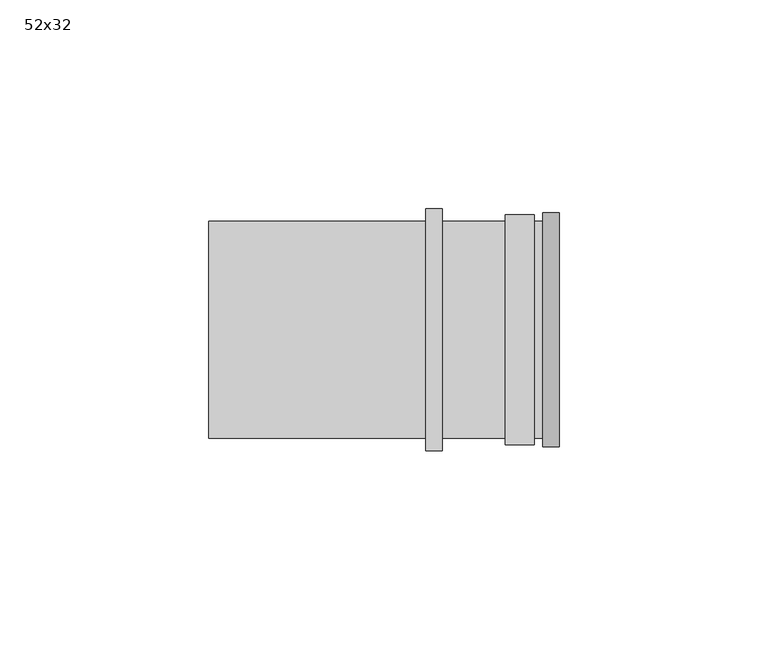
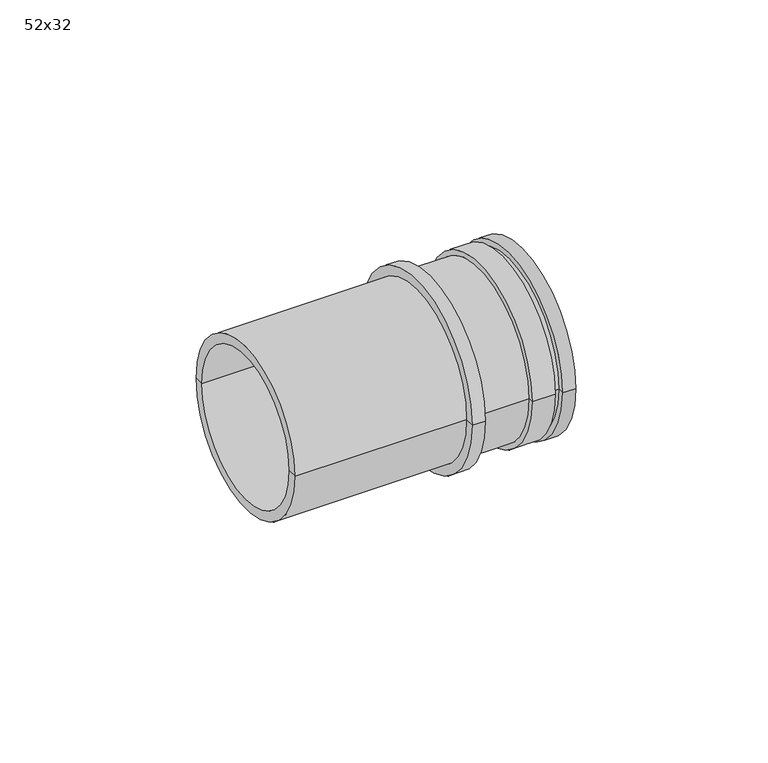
"""IFC4 building model written with IfcOpenShell, lengths in millimetres: pipe fitting geometry, AliaxisFR_Friaphon_CopperPVCConnector_FR : 52x32."""

from ifc_helpers import new_model, si_unit, frame, origin, place, context, project, spatial, polyline, circle_curve, source, transform, mapped, element, save
from ifc_brep_helpers import plane_surface, cylinder_surface, revolved_surface, advanced_brep


def pipe_fitting_52x32_a2808027(model_context):
    return source(origin(), model_context, "Body", "AdvancedBrep", [
        advanced_brep(
        [(19.0, 27.5404487, 0.0), (19.0, -27.5404487, 0.0), (19.0, -26.0, 0.0), (19.0, 26.0, 0.0), (26.0, 27.5404487, 0.0), (26.0, -27.5404487, 0.0), (26.0, 26.0, 0.0), (26.0, -26.0, 0.0), (28.0, 26.0, 0.0), (28.0, -26.0, 0.0), (28.0, 23.0, 0.0), (28.0, -23.0, 0.0), (-52.0, 23.0, 0.0), (-52.0, -23.0, 0.0), (0.0, 26.0, 0.0), (0.0, -26.0, 0.0), (-52.0, -26.0, 0.0), (-52.0, 26.0, 0.0), (0.0, 29.0, 0.0), (0.0, -29.0, 0.0), (4.0, 29.0, 0.0), (4.0, -29.0, 0.0), (4.0, 26.0, 0.0), (4.0, -26.0, 0.0)],
        [
            (0, 1, circle_curve(frame((19.0, 0.0, 0.0), z_axis=(-1.0, 0.0, 0.0), x_axis=(0.0, -1.0, 0.0)), 27.5404487)),
            (1, 2),
            (2, 3, circle_curve(frame((19.0, 0.0, 0.0), z_axis=(1.0, 0.0, 0.0), x_axis=(0.0, -1.0, 0.0)), 26.0)),
            (3, 0),
            (1, 0, circle_curve(frame((19.0, 0.0, 0.0), z_axis=(-1.0, 0.0, 0.0), x_axis=(0.0, -1.0, 0.0)), 27.5404487)),
            (3, 2, circle_curve(frame((19.0, 0.0, 0.0), z_axis=(1.0, 0.0, 0.0), x_axis=(0.0, -1.0, 0.0)), 26.0)),
            (4, 5, circle_curve(frame((26.0, 0.0, 0.0), z_axis=(-1.0, 0.0, 0.0), x_axis=(0.0, -1.0, 0.0)), 27.5404487)),
            (5, 1),
            (0, 4),
            (5, 4, circle_curve(frame((26.0, 0.0, 0.0), z_axis=(-1.0, 0.0, 0.0), x_axis=(0.0, -1.0, 0.0)), 27.5404487)),
            (6, 7, circle_curve(frame((26.0, 0.0, 0.0), z_axis=(-1.0, 0.0, 0.0), x_axis=(0.0, -1.0, 0.0)), 26.0)),
            (7, 5),
            (4, 6),
            (7, 6, circle_curve(frame((26.0, 0.0, 0.0), z_axis=(-1.0, 0.0, 0.0), x_axis=(0.0, -1.0, 0.0)), 26.0)),
            (8, 9, circle_curve(frame((28.0, 0.0, 0.0), z_axis=(-1.0, 0.0, 0.0), x_axis=(0.0, -1.0, 0.0)), 26.0)),
            (9, 7),
            (6, 8),
            (9, 8, circle_curve(frame((28.0, 0.0, 0.0), z_axis=(-1.0, 0.0, 0.0), x_axis=(0.0, -1.0, 0.0)), 26.0)),
            (10, 11, circle_curve(frame((28.0, 0.0, 0.0), z_axis=(-1.0, 0.0, 0.0), x_axis=(0.0, -1.0, 0.0)), 23.0)),
            (11, 9),
            (8, 10),
            (11, 10, circle_curve(frame((28.0, 0.0, 0.0), z_axis=(-1.0, 0.0, 0.0), x_axis=(0.0, -1.0, 0.0)), 23.0)),
            (12, 13, circle_curve(frame((-52.0, 0.0, 0.0), z_axis=(-1.0, 0.0, 0.0), x_axis=(0.0, -1.0, 0.0)), 23.0)),
            (13, 11),
            (10, 12),
            (13, 12, circle_curve(frame((-52.0, 0.0, 0.0), z_axis=(-1.0, 0.0, 0.0), x_axis=(0.0, -1.0, 0.0)), 23.0)),
            (14, 15, circle_curve(frame((0.0, 0.0, 0.0), z_axis=(-1.0, 0.0, 0.0), x_axis=(0.0, -1.0, 0.0)), 26.0)),
            (15, 16),
            (16, 17, circle_curve(frame((-52.0, 0.0, 0.0), z_axis=(1.0, 0.0, 0.0), x_axis=(0.0, -1.0, 0.0)), 26.0)),
            (17, 14),
            (15, 14, circle_curve(frame((0.0, 0.0, 0.0), z_axis=(-1.0, 0.0, 0.0), x_axis=(0.0, -1.0, 0.0)), 26.0)),
            (17, 16, circle_curve(frame((-52.0, 0.0, 0.0), z_axis=(1.0, 0.0, 0.0), x_axis=(0.0, -1.0, 0.0)), 26.0)),
            (16, 13),
            (12, 17),
            (18, 19, circle_curve(frame((0.0, 0.0, 0.0), z_axis=(-1.0, 0.0, 0.0), x_axis=(0.0, -1.0, 0.0)), 29.0)),
            (19, 15),
            (14, 18),
            (19, 18, circle_curve(frame((0.0, 0.0, 0.0), z_axis=(-1.0, 0.0, 0.0), x_axis=(0.0, -1.0, 0.0)), 29.0)),
            (20, 21, circle_curve(frame((4.0, 0.0, 0.0), z_axis=(-1.0, 0.0, 0.0), x_axis=(0.0, -1.0, 0.0)), 29.0)),
            (21, 19),
            (18, 20),
            (21, 20, circle_curve(frame((4.0, 0.0, 0.0), z_axis=(-1.0, 0.0, 0.0), x_axis=(0.0, -1.0, 0.0)), 29.0)),
            (22, 23, circle_curve(frame((4.0, 0.0, 0.0), z_axis=(-1.0, 0.0, 0.0), x_axis=(0.0, -1.0, 0.0)), 26.0)),
            (23, 21),
            (20, 22),
            (23, 22, circle_curve(frame((4.0, 0.0, 0.0), z_axis=(-1.0, 0.0, 0.0), x_axis=(0.0, -1.0, 0.0)), 26.0)),
            (2, 23),
            (22, 3),
        ],
        [
            plane_surface(frame((19.0, 0.0, 0.0), z_axis=(-1.0, 0.0, 0.0), x_axis=(0.0, -1.0, 0.0))),
            cylinder_surface(frame((1990.0, 0.0, 0.0), z_axis=(1.0, 0.0, 0.0), x_axis=(0.0, -1.0, 0.0)), 27.5404487),
            plane_surface(frame((26.0, 0.0, 0.0), z_axis=(1.0, 0.0, 0.0), x_axis=(0.0, -1.0, 0.0))),
            cylinder_surface(frame((1990.0, 0.0, 0.0), z_axis=(1.0, 0.0, 0.0), x_axis=(0.0, -1.0, 0.0)), 26.0),
            plane_surface(frame((28.0, 0.0, 0.0), z_axis=(1.0, 0.0, 0.0), x_axis=(0.0, -1.0, 0.0))),
            revolved_surface(polyline([(28.0, -23.0, 0.0), (-52.0, -23.0, 0.0)]), (1990.0, 0.0, 0.0), (1.0, 0.0, 0.0)),
            plane_surface(frame((-52.0, 0.0, 0.0), z_axis=(-1.0, 0.0, 0.0), x_axis=(0.0, -1.0, 0.0))),
            plane_surface(frame((0.0, 0.0, 0.0), z_axis=(-1.0, 0.0, 0.0), x_axis=(0.0, -1.0, 0.0))),
            cylinder_surface(frame((1990.0, 0.0, 0.0), z_axis=(1.0, 0.0, 0.0), x_axis=(0.0, -1.0, 0.0)), 29.0),
            plane_surface(frame((4.0, 0.0, 0.0), z_axis=(1.0, 0.0, 0.0), x_axis=(0.0, -1.0, 0.0))),
        ],
        [
            (0, [[1, 2, 3, 4]]),
            (0, [[5, -4, 6, -2]]),
            (1, [[7, 8, -1, 9]]),
            (1, [[10, -9, -5, -8]]),
            (2, [[11, 12, -7, 13]]),
            (2, [[14, -13, -10, -12]]),
            (3, [[15, 16, -11, 17]]),
            (3, [[18, -17, -14, -16]]),
            (4, [[19, 20, -15, 21]]),
            (4, [[22, -21, -18, -20]]),
            (5, [[23, 24, -19, 25]]),
            (5, [[26, -25, -22, -24]]),
            (3, [[27, 28, 29, 30]]),
            (3, [[31, -30, 32, -28]]),
            (6, [[-29, 33, -23, 34]]),
            (6, [[-32, -34, -26, -33]]),
            (7, [[35, 36, -27, 37]]),
            (7, [[38, -37, -31, -36]]),
            (8, [[39, 40, -35, 41]]),
            (8, [[42, -41, -38, -40]]),
            (9, [[43, 44, -39, 45]]),
            (9, [[46, -45, -42, -44]]),
            (3, [[-3, 47, -43, 48]]),
            (3, [[-6, -48, -46, -47]]),
        ],
    ),
        advanced_brep(
        [(4.0, -16.0, 0.0), (4.0, 16.0, 0.0), (4.0, 23.0, 0.0), (4.0, -23.0, 0.0), (32.0, -16.0, 0.0), (32.0, 16.0, 0.0), (32.0, -28.0, 0.0), (32.0, 28.0, 0.0), (28.0, -28.0, 0.0), (28.0, 28.0, 0.0), (28.0, -23.0, 0.0), (28.0, 23.0, 0.0)],
        [
            (0, 1, circle_curve(frame((4.0, 0.0, 0.0), z_axis=(1.0, 0.0, 0.0), x_axis=(0.0, 1.0, 0.0)), 16.0)),
            (1, 2),
            (2, 3, circle_curve(frame((4.0, 0.0, 0.0), z_axis=(-1.0, 0.0, 0.0), x_axis=(0.0, 1.0, 0.0)), 23.0)),
            (3, 0),
            (1, 0, circle_curve(frame((4.0, 0.0, 0.0), z_axis=(1.0, 0.0, 0.0), x_axis=(0.0, 1.0, 0.0)), 16.0)),
            (3, 2, circle_curve(frame((4.0, 0.0, 0.0), z_axis=(-1.0, 0.0, 0.0), x_axis=(0.0, 1.0, 0.0)), 23.0)),
            (4, 5, circle_curve(frame((32.0, 0.0, 0.0), z_axis=(1.0, 0.0, 0.0), x_axis=(0.0, 1.0, 0.0)), 16.0)),
            (5, 1),
            (0, 4),
            (5, 4, circle_curve(frame((32.0, 0.0, 0.0), z_axis=(1.0, 0.0, 0.0), x_axis=(0.0, 1.0, 0.0)), 16.0)),
            (6, 7, circle_curve(frame((32.0, 0.0, 0.0), z_axis=(1.0, 0.0, 0.0), x_axis=(0.0, 1.0, 0.0)), 28.0)),
            (7, 5),
            (4, 6),
            (7, 6, circle_curve(frame((32.0, 0.0, 0.0), z_axis=(1.0, 0.0, 0.0), x_axis=(0.0, 1.0, 0.0)), 28.0)),
            (8, 9, circle_curve(frame((28.0, 0.0, 0.0), z_axis=(1.0, 0.0, 0.0), x_axis=(0.0, 1.0, 0.0)), 28.0)),
            (9, 7),
            (6, 8),
            (9, 8, circle_curve(frame((28.0, 0.0, 0.0), z_axis=(1.0, 0.0, 0.0), x_axis=(0.0, 1.0, 0.0)), 28.0)),
            (10, 11, circle_curve(frame((28.0, 0.0, 0.0), z_axis=(1.0, 0.0, 0.0), x_axis=(0.0, 1.0, 0.0)), 23.0)),
            (11, 9),
            (8, 10),
            (11, 10, circle_curve(frame((28.0, 0.0, 0.0), z_axis=(1.0, 0.0, 0.0), x_axis=(0.0, 1.0, 0.0)), 23.0)),
            (2, 11),
            (10, 3),
        ],
        [
            plane_surface(frame((4.0, 0.0, 0.0), z_axis=(-1.0, 0.0, 0.0), x_axis=(0.0, 1.0, 0.0))),
            revolved_surface(polyline([(4.0, 16.0, 0.0), (32.0, 16.0, 0.0)]), (1990.0, 0.0, 0.0), (-1.0, 0.0, 0.0)),
            plane_surface(frame((32.0, 0.0, 0.0), z_axis=(1.0, 0.0, 0.0), x_axis=(0.0, 1.0, 0.0))),
            cylinder_surface(frame((1990.0, 0.0, 0.0), z_axis=(-1.0, 0.0, 0.0), x_axis=(0.0, 1.0, 0.0)), 28.0),
            plane_surface(frame((28.0, 0.0, 0.0), z_axis=(-1.0, 0.0, 0.0), x_axis=(0.0, 1.0, 0.0))),
            cylinder_surface(frame((1990.0, 0.0, 0.0), z_axis=(-1.0, 0.0, 0.0), x_axis=(0.0, 1.0, 0.0)), 23.0),
        ],
        [
            (0, [[1, 2, 3, 4]]),
            (0, [[5, -4, 6, -2]]),
            (1, [[7, 8, -1, 9]]),
            (1, [[10, -9, -5, -8]]),
            (2, [[11, 12, -7, 13]]),
            (2, [[14, -13, -10, -12]]),
            (3, [[15, 16, -11, 17]]),
            (3, [[18, -17, -14, -16]]),
            (4, [[19, 20, -15, 21]]),
            (4, [[22, -21, -18, -20]]),
            (5, [[-3, 23, -19, 24]]),
            (5, [[-6, -24, -22, -23]]),
        ],
    ),
    ])


if __name__ == "__main__":
    model = new_model("IFC4")
    model_context = context("Model", 3, world=origin())
    ifc_project = project(units=[si_unit("LENGTHUNIT", "METRE", prefix="MILLI")], contexts=[model_context])
    site = spatial("IfcSite", under=ifc_project)
    building = spatial("IfcBuilding", under=site)
    placement = place(None, origin())
    pipe_fitting_52x32_shape = pipe_fitting_52x32_a2808027(model_context)
    element("IfcPipeFitting", 1, ObjectType="AliaxisFR_Friaphon_CopperPVCConnector_FR : 52x32", at=placement, inside=building, context=model_context, shape_type="MappedRepresentation", body=[
        mapped(pipe_fitting_52x32_shape, transform((0.0, 0.0, 0.0), x_axis=(1.0, 0.0, 0.0), y_axis=(0.0, 1.0, 0.0), z_axis=(0.0, 0.0, 1.0))),
    ])
    save(model, "model.ifc")
